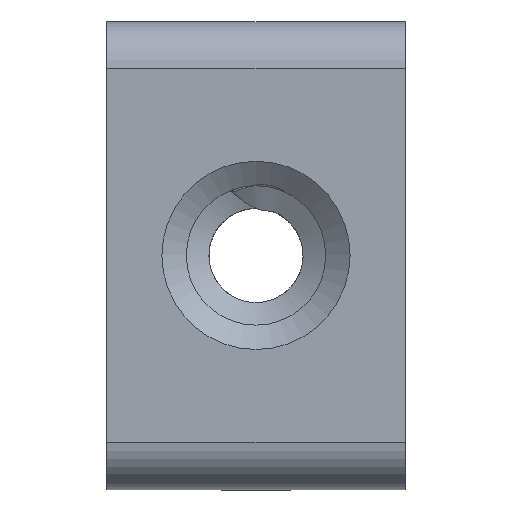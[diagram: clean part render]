
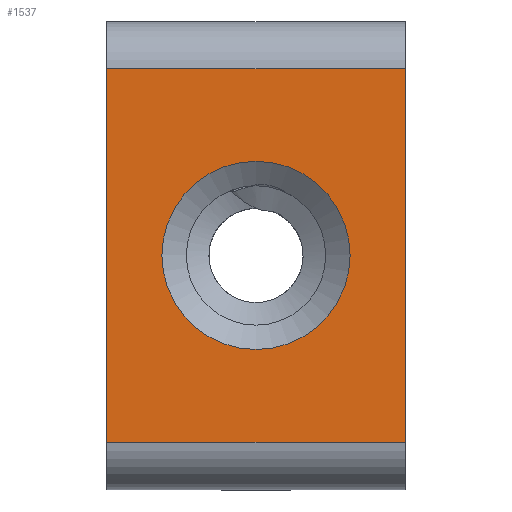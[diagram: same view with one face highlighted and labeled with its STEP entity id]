
A CAD part, top view. The second image highlights one B-rep face of the part: STEP entity #1537.
In plain terms, the highlighted planar face has unit normal (0, 0, 1).
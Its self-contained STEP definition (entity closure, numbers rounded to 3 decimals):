
#1491 = VERTEX_POINT('',#1492);
#1492 = CARTESIAN_POINT('',(-3.2,-4.001,10.49));
#1499 = EDGE_CURVE('',#1491,#1500,#1502,.T.);
#1500 = VERTEX_POINT('',#1501);
#1501 = CARTESIAN_POINT('',(3.2,-4.001,10.49));
#1502 = LINE('',#1503,#1504);
#1503 = CARTESIAN_POINT('',(-3.2,-4.001,10.49));
#1504 = VECTOR('',#1505,1.);
#1505 = DIRECTION('',(1.,0.,0.));
#1537 = ADVANCED_FACE('',(#1538,#1563),#1574,.T.);
#1538 = FACE_BOUND('',#1539,.T.);
#1539 = EDGE_LOOP('',(#1540,#1541,#1549,#1557));
#1540 = ORIENTED_EDGE('',*,*,#1499,.T.);
#1541 = ORIENTED_EDGE('',*,*,#1542,.T.);
#1542 = EDGE_CURVE('',#1500,#1543,#1545,.T.);
#1543 = VERTEX_POINT('',#1544);
#1544 = CARTESIAN_POINT('',(3.2,4.001,10.49));
#1545 = LINE('',#1546,#1547);
#1546 = CARTESIAN_POINT('',(3.2,-4.001,10.49));
#1547 = VECTOR('',#1548,1.);
#1548 = DIRECTION('',(0.,1.,0.));
#1549 = ORIENTED_EDGE('',*,*,#1550,.T.);
#1550 = EDGE_CURVE('',#1543,#1551,#1553,.T.);
#1551 = VERTEX_POINT('',#1552);
#1552 = CARTESIAN_POINT('',(-3.2,4.001,10.49));
#1553 = LINE('',#1554,#1555);
#1554 = CARTESIAN_POINT('',(3.2,4.001,10.49));
#1555 = VECTOR('',#1556,1.);
#1556 = DIRECTION('',(-1.,0.,0.));
#1557 = ORIENTED_EDGE('',*,*,#1558,.T.);
#1558 = EDGE_CURVE('',#1551,#1491,#1559,.T.);
#1559 = LINE('',#1560,#1561);
#1560 = CARTESIAN_POINT('',(-3.2,4.001,10.49));
#1561 = VECTOR('',#1562,1.);
#1562 = DIRECTION('',(0.,-1.,0.));
#1563 = FACE_BOUND('',#1564,.T.);
#1564 = EDGE_LOOP('',(#1565));
#1565 = ORIENTED_EDGE('',*,*,#1566,.T.);
#1566 = EDGE_CURVE('',#1567,#1567,#1569,.T.);
#1567 = VERTEX_POINT('',#1568);
#1568 = CARTESIAN_POINT('',(-2.017,0.,10.49));
#1569 = CIRCLE('',#1570,2.017);
#1570 = AXIS2_PLACEMENT_3D('',#1571,#1572,#1573);
#1571 = CARTESIAN_POINT('',(0.,0.,10.49));
#1572 = DIRECTION('',(0.,0.,-1.));
#1573 = DIRECTION('',(-1.,0.,0.));
#1574 = PLANE('',#1575);
#1575 = AXIS2_PLACEMENT_3D('',#1576,#1577,#1578);
#1576 = CARTESIAN_POINT('',(0.,0.,10.49));
#1577 = DIRECTION('',(0.,0.,1.));
#1578 = DIRECTION('',(1.,0.,-0.));
